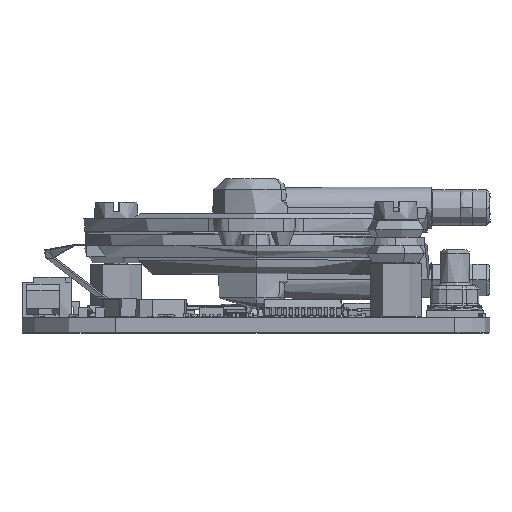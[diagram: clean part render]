
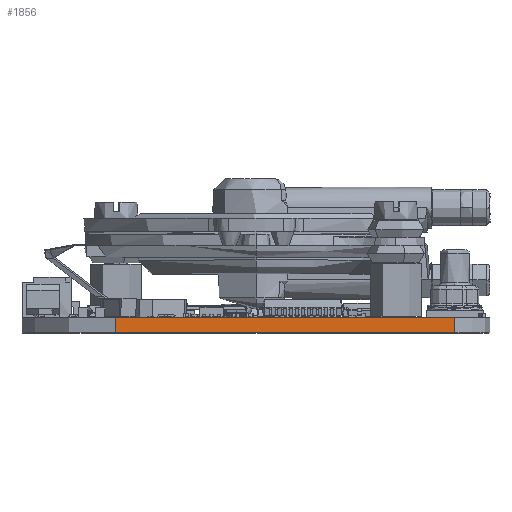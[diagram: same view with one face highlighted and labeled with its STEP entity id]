
A CAD part, top view. The second image highlights one B-rep face of the part: STEP entity #1856.
In plain terms, the highlighted planar face has unit normal (0, 0, 1) as drawn and (0, -1, 0) by its records, which use the part's own axes.
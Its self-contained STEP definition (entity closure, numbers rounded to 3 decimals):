
#1235 = CARTESIAN_POINT ( 'NONE',  ( 117., -115., 0.3 ) ) ;
#1346 = PLANE ( 'NONE',  #55735 ) ;
#1856 = ADVANCED_FACE ( 'NONE', ( #30808 ), #1346, .F. ) ;
#3502 = LINE ( 'NONE', #29364, #36145 ) ;
#4941 = VECTOR ( 'NONE', #35366, 1000. ) ;
#7524 = CARTESIAN_POINT ( 'NONE',  ( 112., -115., 0. ) ) ;
#9323 = EDGE_CURVE ( 'NONE', #29084, #20707, #60676, .T. ) ;
#9655 = CARTESIAN_POINT ( 'NONE',  ( 117., -115., 1.6 ) ) ;
#9742 = ORIENTED_EDGE ( 'NONE', *, *, #9323, .F. ) ;
#13998 = CARTESIAN_POINT ( 'NONE',  ( 117., -115., 0. ) ) ;
#15236 = ORIENTED_EDGE ( 'NONE', *, *, #58044, .F. ) ;
#17325 = DIRECTION ( 'NONE',  ( 0., 1., 0. ) ) ;
#18030 = LINE ( 'NONE', #56375, #4941 ) ;
#19495 = CARTESIAN_POINT ( 'NONE',  ( 88., -115., 1.6 ) ) ;
#20148 = CARTESIAN_POINT ( 'NONE',  ( 117., -115., 0.3 ) ) ;
#20707 = VERTEX_POINT ( 'NONE', #28678 ) ;
#28678 = CARTESIAN_POINT ( 'NONE',  ( 88., -115., 0.3 ) ) ;
#29084 = VERTEX_POINT ( 'NONE', #1235 ) ;
#29364 = CARTESIAN_POINT ( 'NONE',  ( 88., -115., 0. ) ) ;
#30755 = ORIENTED_EDGE ( 'NONE', *, *, #38769, .F. ) ;
#30808 = FACE_OUTER_BOUND ( 'NONE', #47811, .T. ) ;
#32591 = VERTEX_POINT ( 'NONE', #19495 ) ;
#35366 = DIRECTION ( 'NONE',  ( 1., 0., 0. ) ) ;
#36145 = VECTOR ( 'NONE', #66726, 1000. ) ;
#36736 = LINE ( 'NONE', #13998, #40044 ) ;
#38769 = EDGE_CURVE ( 'NONE', #20707, #32591, #3502, .T. ) ;
#40044 = VECTOR ( 'NONE', #65048, 1000. ) ;
#47811 = EDGE_LOOP ( 'NONE', ( #9742, #53416, #15236, #30755 ) ) ;
#50868 = VERTEX_POINT ( 'NONE', #9655 ) ;
#53304 = VECTOR ( 'NONE', #61893, 1000. ) ;
#53416 = ORIENTED_EDGE ( 'NONE', *, *, #57039, .F. ) ;
#54237 = DIRECTION ( 'NONE',  ( 0., 0., 1. ) ) ;
#55735 = AXIS2_PLACEMENT_3D ( 'NONE', #7524, #17325, #54237 ) ;
#56375 = CARTESIAN_POINT ( 'NONE',  ( 112., -115., 1.6 ) ) ;
#57039 = EDGE_CURVE ( 'NONE', #50868, #29084, #36736, .T. ) ;
#58044 = EDGE_CURVE ( 'NONE', #32591, #50868, #18030, .T. ) ;
#60676 = LINE ( 'NONE', #20148, #53304 ) ;
#61893 = DIRECTION ( 'NONE',  ( -1., 0., 0. ) ) ;
#65048 = DIRECTION ( 'NONE',  ( 0., 0., -1. ) ) ;
#66726 = DIRECTION ( 'NONE',  ( 0., 0., 1. ) ) ;
